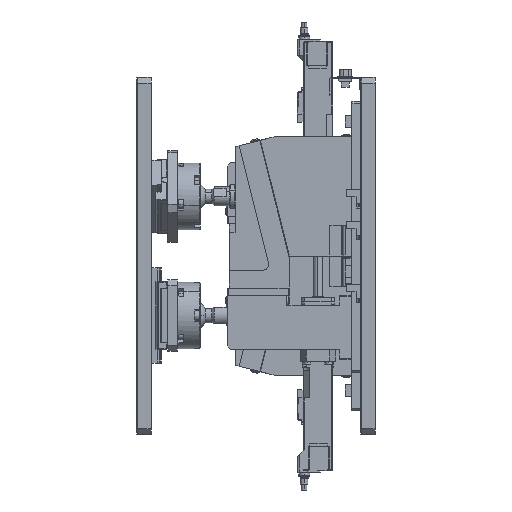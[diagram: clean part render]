
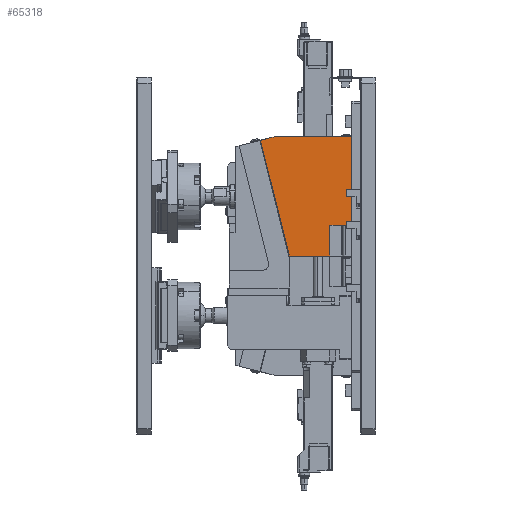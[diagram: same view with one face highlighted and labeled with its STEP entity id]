
A CAD part, left-side view. The second image highlights one B-rep face of the part: STEP entity #65318.
In plain terms, the highlighted planar face has unit normal (-1, 0, 0).
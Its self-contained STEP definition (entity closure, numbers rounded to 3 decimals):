
#1059 = LINE ( 'NONE', #95375, #78284 ) ;
#2397 = CARTESIAN_POINT ( 'NONE',  ( -115.603, 43., 26. ) ) ;
#3812 = LINE ( 'NONE', #63646, #107426 ) ;
#6898 = LINE ( 'NONE', #50024, #22838 ) ;
#7994 = ORIENTED_EDGE ( 'NONE', *, *, #51298, .T. ) ;
#15683 = DIRECTION ( 'NONE',  ( 0., -1., 0. ) ) ;
#15880 = DIRECTION ( 'NONE',  ( 1., 0., 0. ) ) ;
#15907 = EDGE_CURVE ( 'NONE', #89345, #16800, #19635, .T. ) ;
#16602 = DIRECTION ( 'NONE',  ( 0., 0., 1. ) ) ;
#16800 = VERTEX_POINT ( 'NONE', #102536 ) ;
#18221 = ORIENTED_EDGE ( 'NONE', *, *, #92282, .T. ) ;
#19635 = LINE ( 'NONE', #2397, #41805 ) ;
#19928 = CARTESIAN_POINT ( 'NONE',  ( -115.603, 89.811, 100. ) ) ;
#21036 = DIRECTION ( 'NONE',  ( 0., 1., 0. ) ) ;
#21041 = VECTOR ( 'NONE', #92327, 1000. ) ;
#21065 = VECTOR ( 'NONE', #48380, 1000. ) ;
#22838 = VECTOR ( 'NONE', #111562, 1000. ) ;
#25072 = PLANE ( 'NONE',  #38592 ) ;
#31116 = ORIENTED_EDGE ( 'NONE', *, *, #85372, .F. ) ;
#32372 = CARTESIAN_POINT ( 'NONE',  ( -115.603, 25., 0. ) ) ;
#33208 = ORIENTED_EDGE ( 'NONE', *, *, #86016, .T. ) ;
#33497 = LINE ( 'NONE', #32372, #97830 ) ;
#34585 = VERTEX_POINT ( 'NONE', #110734 ) ;
#36611 = CARTESIAN_POINT ( 'NONE',  ( -115.603, 25., 0. ) ) ;
#36794 = CARTESIAN_POINT ( 'NONE',  ( -115.603, 101.268, 97.136 ) ) ;
#38004 = EDGE_LOOP ( 'NONE', ( #18221, #7994, #97340, #31116, #94063, #93351, #108327, #100233, #33208 ) ) ;
#38592 = AXIS2_PLACEMENT_3D ( 'NONE', #44033, #15880, #52666 ) ;
#38879 = LINE ( 'NONE', #64203, #21041 ) ;
#41480 = CARTESIAN_POINT ( 'NONE',  ( -115.603, 25., 0. ) ) ;
#41805 = VECTOR ( 'NONE', #73669, 1000. ) ;
#43545 = CARTESIAN_POINT ( 'NONE',  ( -115.603, 76.985, 0. ) ) ;
#44033 = CARTESIAN_POINT ( 'NONE',  ( -115.603, 25., 0. ) ) ;
#47615 = EDGE_CURVE ( 'NONE', #85879, #96462, #72772, .T. ) ;
#48380 = DIRECTION ( 'NONE',  ( 0., -1., 0. ) ) ;
#48949 = LINE ( 'NONE', #41480, #21065 ) ;
#50024 = CARTESIAN_POINT ( 'NONE',  ( -115.603, 33., -5. ) ) ;
#51298 = EDGE_CURVE ( 'NONE', #52975, #89345, #1059, .T. ) ;
#52666 = DIRECTION ( 'NONE',  ( 0., 0., -1. ) ) ;
#52975 = VERTEX_POINT ( 'NONE', #57028 ) ;
#56657 = DIRECTION ( 'NONE',  ( 0., 0., 1. ) ) ;
#57028 = CARTESIAN_POINT ( 'NONE',  ( -115.603, 43., 0. ) ) ;
#59578 = FACE_OUTER_BOUND ( 'NONE', #38004, .T. ) ;
#63646 = CARTESIAN_POINT ( 'NONE',  ( -115.603, 89.811, 100. ) ) ;
#64203 = CARTESIAN_POINT ( 'NONE',  ( -115.603, 73.927, -12.232 ) ) ;
#65318 = ADVANCED_FACE ( 'NONE', ( #59578 ), #25072, .F. ) ;
#72772 = LINE ( 'NONE', #100359, #94000 ) ;
#73669 = DIRECTION ( 'NONE',  ( 0., -1., 0. ) ) ;
#73719 = CARTESIAN_POINT ( 'NONE',  ( -115.603, 25., 100. ) ) ;
#76600 = EDGE_CURVE ( 'NONE', #98271, #107934, #80962, .T. ) ;
#78284 = VECTOR ( 'NONE', #16602, 1000. ) ;
#79267 = CARTESIAN_POINT ( 'NONE',  ( -115.603, 43., 26. ) ) ;
#80962 = LINE ( 'NONE', #82664, #83240 ) ;
#82664 = CARTESIAN_POINT ( 'NONE',  ( -115.603, 101.754, 97.014 ) ) ;
#83240 = VECTOR ( 'NONE', #98223, 1000. ) ;
#85372 = EDGE_CURVE ( 'NONE', #34585, #16800, #6898, .T. ) ;
#85811 = VERTEX_POINT ( 'NONE', #43545 ) ;
#85879 = VERTEX_POINT ( 'NONE', #36611 ) ;
#85998 = EDGE_CURVE ( 'NONE', #96462, #98271, #3812, .T. ) ;
#86016 = EDGE_CURVE ( 'NONE', #107934, #85811, #38879, .T. ) ;
#89345 = VERTEX_POINT ( 'NONE', #79267 ) ;
#92282 = EDGE_CURVE ( 'NONE', #85811, #52975, #48949, .T. ) ;
#92327 = DIRECTION ( 'NONE',  ( 0., -0.243, -0.97 ) ) ;
#93351 = ORIENTED_EDGE ( 'NONE', *, *, #47615, .T. ) ;
#94000 = VECTOR ( 'NONE', #56657, 1000. ) ;
#94063 = ORIENTED_EDGE ( 'NONE', *, *, #106044, .T. ) ;
#95375 = CARTESIAN_POINT ( 'NONE',  ( -115.603, 43., -5. ) ) ;
#96462 = VERTEX_POINT ( 'NONE', #73719 ) ;
#97340 = ORIENTED_EDGE ( 'NONE', *, *, #15907, .T. ) ;
#97830 = VECTOR ( 'NONE', #15683, 1000. ) ;
#98223 = DIRECTION ( 'NONE',  ( 0., 0.97, -0.243 ) ) ;
#98271 = VERTEX_POINT ( 'NONE', #19928 ) ;
#100233 = ORIENTED_EDGE ( 'NONE', *, *, #76600, .T. ) ;
#100359 = CARTESIAN_POINT ( 'NONE',  ( -115.603, 25., 100. ) ) ;
#102536 = CARTESIAN_POINT ( 'NONE',  ( -115.603, 33., 26. ) ) ;
#106044 = EDGE_CURVE ( 'NONE', #34585, #85879, #33497, .T. ) ;
#107426 = VECTOR ( 'NONE', #21036, 1000. ) ;
#107934 = VERTEX_POINT ( 'NONE', #36794 ) ;
#108327 = ORIENTED_EDGE ( 'NONE', *, *, #85998, .T. ) ;
#110734 = CARTESIAN_POINT ( 'NONE',  ( -115.603, 33., 0. ) ) ;
#111562 = DIRECTION ( 'NONE',  ( 0., 0., 1. ) ) ;
